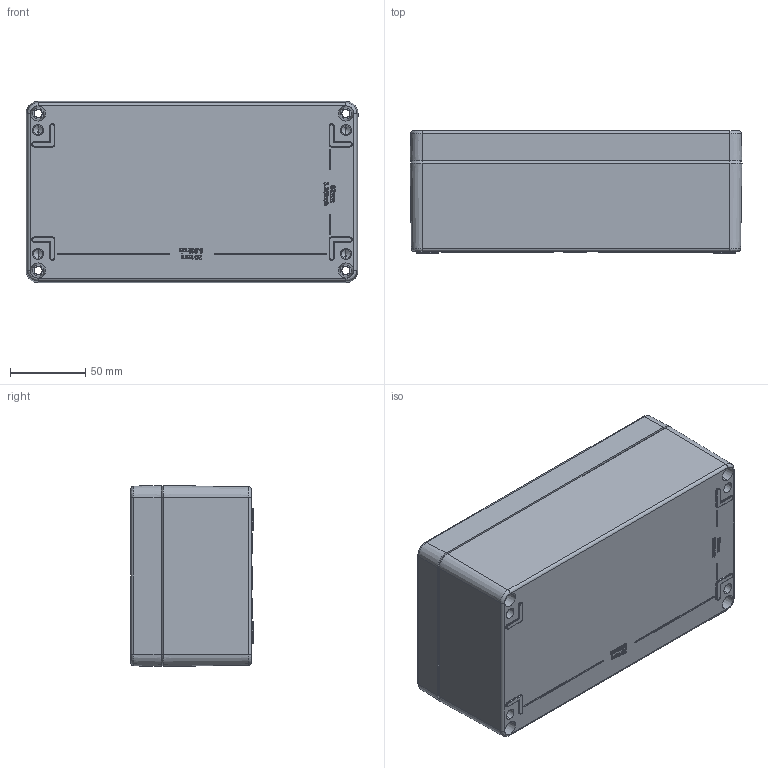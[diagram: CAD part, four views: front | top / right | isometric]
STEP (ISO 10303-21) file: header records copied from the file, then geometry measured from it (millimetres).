
FILE_DESCRIPTION (( 'STEP AP203' ), '1' );
FILE_NAME ('BB053.STEP', '2024-12-28T13:18:34', ( '' ), ( '' ), 'SwSTEP 2.0', 'SolidWorks 2019', '' );
FILE_SCHEMA (( 'CONFIG_CONTROL_DESIGN' ));
Length unit declared in the file: millimetre
Products named in the file (3): Base 220X120X81; Lid 220X120X81; BB053
Assembly tree (2 placements, depth 2):
  BB053
    Base 220X120X81
    Lid 220X120X81
Bounding box: 220 x 81 x 120 mm (x, y, z)
Volume: 494655.5 mm3; surface area: 220003.7 mm2
Topology: 5 solids, 5 shells, 1329 faces, 3402 edges, 2177 vertices
Faces by surface type: plane 585, bspline 325, cone 220, cylinder 199
Entity records: 56075 total; most frequent: CARTESIAN_POINT 25356, ORIENTED_EDGE 6758, DIRECTION 5500, EDGE_CURVE 3379, VERTEX_POINT 2177, LINE 2010, VECTOR 2010, AXIS2_PLACEMENT_3D 1745
